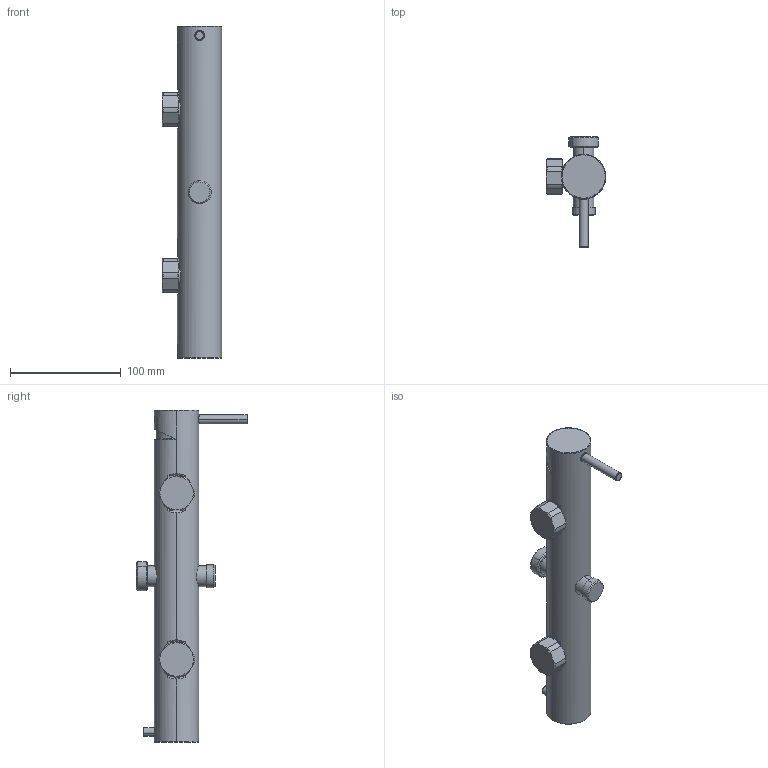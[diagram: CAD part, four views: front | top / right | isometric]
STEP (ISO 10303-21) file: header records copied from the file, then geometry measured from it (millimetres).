
FILE_DESCRIPTION (( 'STEP AP214' ), '1' );
FILE_NAME ('02214310 x architetti.STEP', '2024-09-13T11:34:41', ( '' ), ( '' ), 'SwSTEP 2.0', 'SolidWorks 2020', '' );
FILE_SCHEMA (( 'AUTOMOTIVE_DESIGN' ));
Length unit declared in the file: millimetre
Products named in the file (1): 02214310 x architetti
Bounding box: 53.8 x 100.3 x 299.5 mm (x, y, z)
Volume: 411779.2 mm3; surface area: 55411.6 mm2
Topology: 1 solids, 10 shells, 203 faces, 517 edges, 337 vertices
Faces by surface type: cylinder 72, plane 59, cone 44, bspline 14, torus 14
Entity records: 10979 total; most frequent: CARTESIAN_POINT 4290, ORIENTED_EDGE 1030, DIRECTION 926, EDGE_CURVE 515, AXIS2_PLACEMENT_3D 381, VERTEX_POINT 337, EDGE_LOOP 216, FACE_OUTER_BOUND 203
